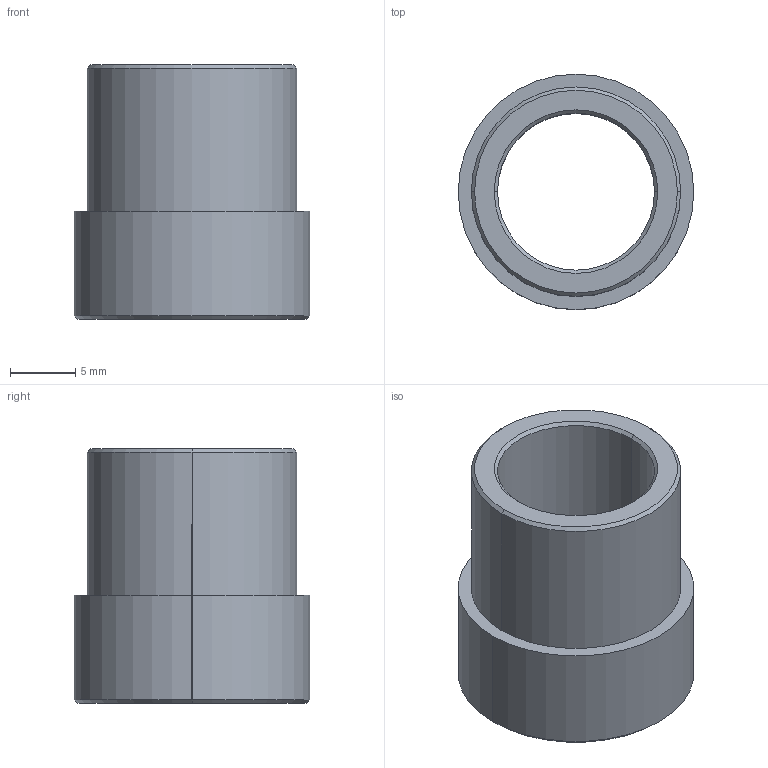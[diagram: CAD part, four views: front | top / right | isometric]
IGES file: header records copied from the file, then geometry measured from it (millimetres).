
Global section: file name: C:\Documents and Settings\Administrator\Desktop\Transfer Temp\transmissionbushing.igs; native system: AutoDesk Inventor R2.0 ; preprocessor: AutoDesk Inventor Iges Exporter R2.0; author: No Author specified; organization: No Organization specified; date: 20011207.195555; units: millimetre
Bounding box: 18 x 18 x 19.45 mm (x, y, z)
Surface area: 2018.7 mm2 (no closed solid volume)
Topology: 0 solids, 0 shells, 17 faces, 68 edges, 68 vertices
Faces by surface type: revolution 12, bspline 5
